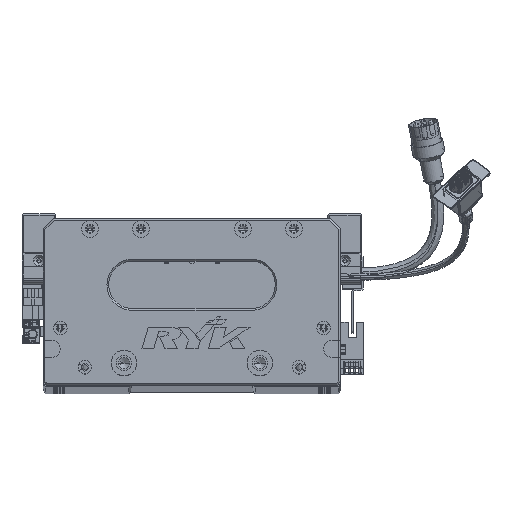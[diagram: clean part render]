
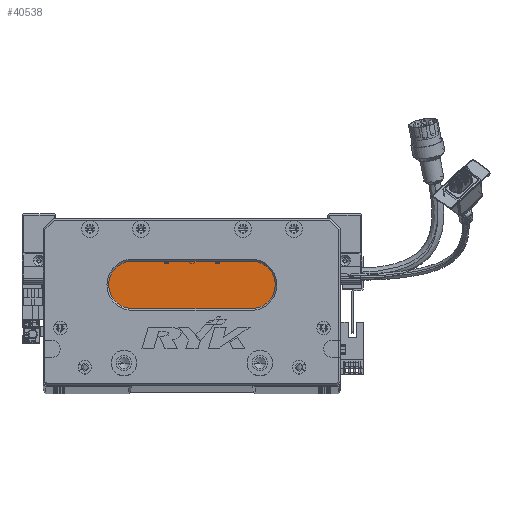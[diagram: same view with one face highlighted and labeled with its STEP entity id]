
A CAD part, top view. The second image highlights one B-rep face of the part: STEP entity #40538.
In plain terms, the highlighted planar face has unit normal (0, 0, 1) as drawn and (0, 0, -1) by its records, which use the part's own axes.
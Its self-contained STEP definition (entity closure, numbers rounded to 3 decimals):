
#770 = VECTOR ( 'NONE', #26814, 1000. ) ;
#1775 = CIRCLE ( 'NONE', #43724, 14. ) ;
#1843 = VECTOR ( 'NONE', #121588, 1000. ) ;
#3837 = DIRECTION ( 'NONE',  ( -1., 0., 0. ) ) ;
#4510 = CARTESIAN_POINT ( 'NONE',  ( 52.5, 45., 18. ) ) ;
#4659 = ORIENTED_EDGE ( 'NONE', *, *, #98009, .T. ) ;
#12863 = ORIENTED_EDGE ( 'NONE', *, *, #94365, .T. ) ;
#15976 = CARTESIAN_POINT ( 'NONE',  ( 52.5, 73., 18. ) ) ;
#18079 = CARTESIAN_POINT ( 'NONE',  ( 122.5, 45., 18. ) ) ;
#18171 = DIRECTION ( 'NONE',  ( -1., 0., 0. ) ) ;
#18643 = DIRECTION ( 'NONE',  ( 0., 0., -1. ) ) ;
#21788 = ORIENTED_EDGE ( 'NONE', *, *, #99894, .T. ) ;
#24570 = AXIS2_PLACEMENT_3D ( 'NONE', #38788, #116001, #105485 ) ;
#25362 = CARTESIAN_POINT ( 'NONE',  ( 52.5, 59., 18. ) ) ;
#26814 = DIRECTION ( 'NONE',  ( 1., 0., 0. ) ) ;
#28338 = CIRCLE ( 'NONE', #24570, 14. ) ;
#29336 = ORIENTED_EDGE ( 'NONE', *, *, #31037, .T. ) ;
#30524 = CIRCLE ( 'NONE', #61291, 14. ) ;
#31037 = EDGE_CURVE ( 'NONE', #42641, #31640, #30524, .T. ) ;
#31640 = VERTEX_POINT ( 'NONE', #18079 ) ;
#34645 = DIRECTION ( 'NONE',  ( 0., 0., -1. ) ) ;
#37571 = CARTESIAN_POINT ( 'NONE',  ( 122.5, 59., 18. ) ) ;
#38788 = CARTESIAN_POINT ( 'NONE',  ( 52.5, 59., 18. ) ) ;
#40538 = ADVANCED_FACE ( 'NONE', ( #124254 ), #72083, .T. ) ;
#41122 = VERTEX_POINT ( 'NONE', #15976 ) ;
#42641 = VERTEX_POINT ( 'NONE', #54944 ) ;
#43724 = AXIS2_PLACEMENT_3D ( 'NONE', #25362, #44699, #18171 ) ;
#44431 = LINE ( 'NONE', #122583, #770 ) ;
#44699 = DIRECTION ( 'NONE',  ( 0., 0., -1. ) ) ;
#44924 = VERTEX_POINT ( 'NONE', #95167 ) ;
#51635 = ORIENTED_EDGE ( 'NONE', *, *, #89866, .T. ) ;
#54029 = CARTESIAN_POINT ( 'NONE',  ( 122.5, 45., 18. ) ) ;
#54944 = CARTESIAN_POINT ( 'NONE',  ( 122.5, 73., 18. ) ) ;
#61291 = AXIS2_PLACEMENT_3D ( 'NONE', #37571, #18643, #86127 ) ;
#61574 = CARTESIAN_POINT ( 'NONE',  ( 122.5, 59., 18. ) ) ;
#65056 = LINE ( 'NONE', #54029, #1843 ) ;
#72083 = PLANE ( 'NONE',  #90602 ) ;
#86127 = DIRECTION ( 'NONE',  ( -1., 0., 0. ) ) ;
#89866 = EDGE_CURVE ( 'NONE', #31640, #94770, #65056, .T. ) ;
#90602 = AXIS2_PLACEMENT_3D ( 'NONE', #61574, #34645, #3837 ) ;
#94365 = EDGE_CURVE ( 'NONE', #94770, #44924, #1775, .T. ) ;
#94770 = VERTEX_POINT ( 'NONE', #4510 ) ;
#95167 = CARTESIAN_POINT ( 'NONE',  ( 38.5, 59., 18. ) ) ;
#98009 = EDGE_CURVE ( 'NONE', #44924, #41122, #28338, .T. ) ;
#99894 = EDGE_CURVE ( 'NONE', #41122, #42641, #44431, .T. ) ;
#105485 = DIRECTION ( 'NONE',  ( -1., 0., 0. ) ) ;
#116001 = DIRECTION ( 'NONE',  ( 0., 0., -1. ) ) ;
#117230 = EDGE_LOOP ( 'NONE', ( #29336, #51635, #12863, #4659, #21788 ) ) ;
#121588 = DIRECTION ( 'NONE',  ( -1., 0., 0. ) ) ;
#122583 = CARTESIAN_POINT ( 'NONE',  ( 122.5, 73., 18. ) ) ;
#124254 = FACE_OUTER_BOUND ( 'NONE', #117230, .T. ) ;
